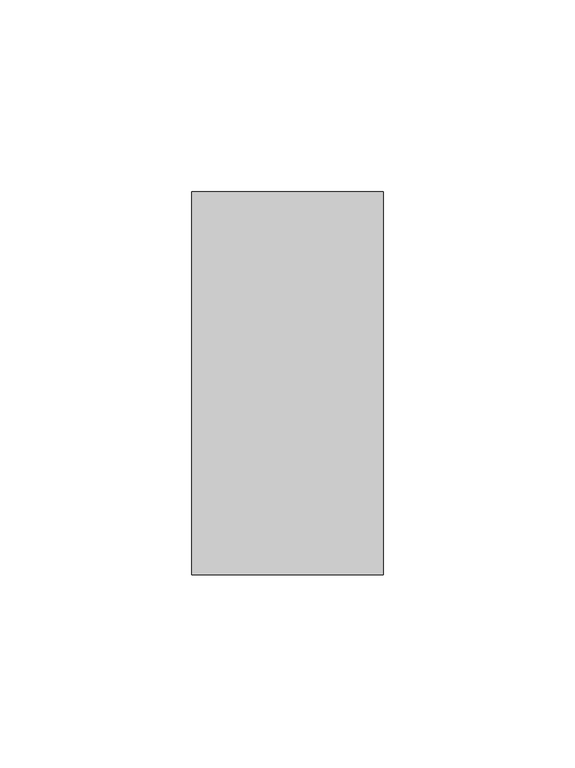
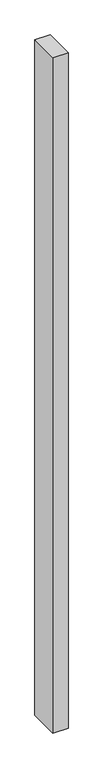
"""IFC4 building model written with IfcOpenShell, lengths in millimetres: member geometry, Прямоугольный импост : 50х100."""

from ifc_helpers import new_model, si_unit, frame, origin, place, context, project, spatial, polyline, outline, extrude, source, transform, mapped, element, save


def member_561d3305(model_context):
    return source(origin(), model_context, "Body", "SweptSolid", [
        extrude(outline(polyline([(25.0, 50.0), (25.0, -50.0), (-25.0, -50.0), (-25.0, 50.0), (25.0, 50.0)])), frame((0.0, 0.0, -2325.0), z_axis=(0.0, 0.0, 1.0), x_axis=(1.0, 0.0, 0.0)), (0.0, 0.0, 1.0), 2325.0),
    ])


if __name__ == "__main__":
    model = new_model("IFC4")
    model_context = context("Model", 3, world=origin())
    ifc_project = project(units=[si_unit("LENGTHUNIT", "METRE", prefix="MILLI")], contexts=[model_context])
    site = spatial("IfcSite", under=ifc_project)
    building = spatial("IfcBuilding", under=site)
    placement = place(None, origin())
    member_shape = member_561d3305(model_context)
    element("IfcMember", 1, ObjectType="Прямоугольный импост : 50х100", at=placement, inside=building, context=model_context, shape_type="MappedRepresentation", body=[
        mapped(member_shape, transform((0.0, 0.0, 0.0), x_axis=(1.0, 0.0, 0.0), y_axis=(0.0, 1.0, 0.0), z_axis=(0.0, 0.0, 1.0))),
    ])
    save(model, "model.ifc")
